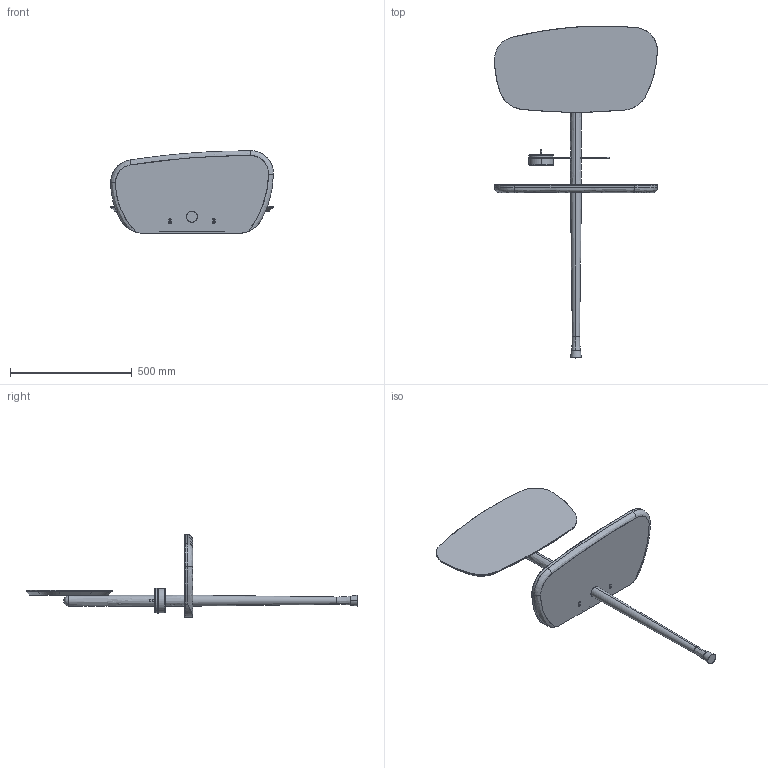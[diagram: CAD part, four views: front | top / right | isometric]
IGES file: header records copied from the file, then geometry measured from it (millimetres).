
Start section: SolidWorks IGES file using analytic representation for surfaces
Global section: file name: N:\OT\OFICINA TECNICA\TECNICO DEFINITIVO\NOMON HOME\3D NOMON HOME\MOMENTOS\TOCADOR\TOCADOR.IGS; native system: SolidWorks 2016; preprocessor: SolidWorks 2016; author: Usuario; date: 171009.092930; units: millimetre
Bounding box: 670.55 x 1365.61 x 340 mm (x, y, z)
Surface area: 1596885 mm2 (no closed solid volume)
Topology: 0 solids, 0 shells, 306 faces, 5536 edges, 5536 vertices
Faces by surface type: revolution 159, bspline 147
